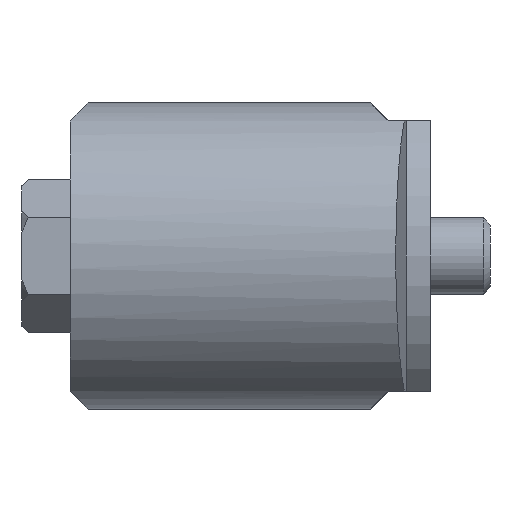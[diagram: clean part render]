
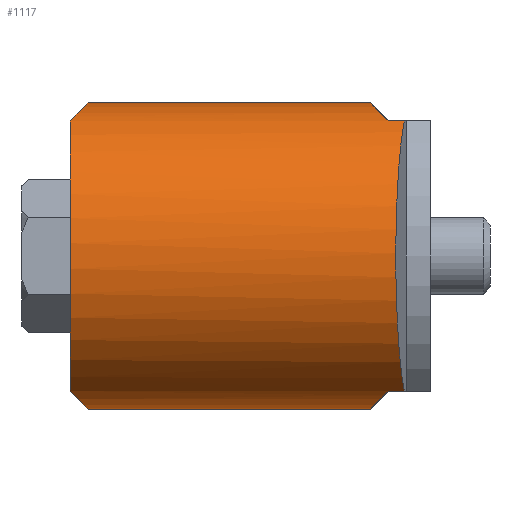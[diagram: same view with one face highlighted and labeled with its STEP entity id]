
A CAD part, left-side view. The second image highlights one B-rep face of the part: STEP entity #1117.
In plain terms, the highlighted cylindrical face has radius 12.75 mm (diameter 25.5 mm), a partial arc.
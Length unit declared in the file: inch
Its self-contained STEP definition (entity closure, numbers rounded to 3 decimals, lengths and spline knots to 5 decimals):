
#40=ELLIPSE('',#1204,0.70989,0.50197);
#41=ELLIPSE('',#1207,0.70989,0.50197);
#42=ELLIPSE('',#1210,0.70989,0.50197);
#43=ELLIPSE('',#1212,0.70989,0.50197);
#44=ELLIPSE('',#1216,0.50473,0.50197);
#104=FACE_OUTER_BOUND('',#168,.T.);
#168=EDGE_LOOP('',(#763,#764,#765,#766,#767,#768,#769,#770,#771,#772));
#235=LINE('',#1715,#303);
#248=LINE('',#1745,#316);
#257=LINE('',#1770,#325);
#258=LINE('',#1772,#326);
#303=VECTOR('',#1368,0.3937);
#316=VECTOR('',#1387,0.3937);
#325=VECTOR('',#1414,0.3937);
#326=VECTOR('',#1417,0.3937);
#375=CIRCLE('',#1218,0.50197);
#446=VERTEX_POINT('',#1705);
#447=VERTEX_POINT('',#1706);
#450=VERTEX_POINT('',#1714);
#455=VERTEX_POINT('',#1726);
#456=VERTEX_POINT('',#1727);
#463=VERTEX_POINT('',#1742);
#464=VERTEX_POINT('',#1744);
#466=VERTEX_POINT('',#1750);
#468=VERTEX_POINT('',#1756);
#469=VERTEX_POINT('',#1757);
#560=EDGE_CURVE('',#446,#447,#40,.T.);
#564=EDGE_CURVE('',#447,#450,#235,.T.);
#570=EDGE_CURVE('',#455,#456,#41,.T.);
#578=EDGE_CURVE('',#464,#463,#248,.T.);
#581=EDGE_CURVE('',#463,#466,#42,.T.);
#584=EDGE_CURVE('',#468,#469,#43,.T.);
#590=EDGE_CURVE('',#450,#464,#44,.T.);
#591=EDGE_CURVE('',#466,#468,#257,.T.);
#592=EDGE_CURVE('',#455,#469,#375,.T.);
#593=EDGE_CURVE('',#446,#456,#258,.T.);
#763=ORIENTED_EDGE('',*,*,#560,.T.);
#764=ORIENTED_EDGE('',*,*,#564,.T.);
#765=ORIENTED_EDGE('',*,*,#590,.T.);
#766=ORIENTED_EDGE('',*,*,#578,.T.);
#767=ORIENTED_EDGE('',*,*,#581,.T.);
#768=ORIENTED_EDGE('',*,*,#591,.T.);
#769=ORIENTED_EDGE('',*,*,#584,.T.);
#770=ORIENTED_EDGE('',*,*,#592,.F.);
#771=ORIENTED_EDGE('',*,*,#570,.T.);
#772=ORIENTED_EDGE('',*,*,#593,.F.);
#1023=CYLINDRICAL_SURFACE('',#1217,0.50197);
#1117=ADVANCED_FACE('',(#104),#1023,.T.);
#1204=AXIS2_PLACEMENT_3D('',#1707,#1361,#1362);
#1207=AXIS2_PLACEMENT_3D('',#1728,#1376,#1377);
#1210=AXIS2_PLACEMENT_3D('',#1751,#1392,#1393);
#1212=AXIS2_PLACEMENT_3D('',#1758,#1398,#1399);
#1216=AXIS2_PLACEMENT_3D('',#1768,#1410,#1411);
#1217=AXIS2_PLACEMENT_3D('',#1769,#1412,#1413);
#1218=AXIS2_PLACEMENT_3D('',#1771,#1415,#1416);
#1361=DIRECTION('center_axis',(0.,0.707,0.707));
#1362=DIRECTION('ref_axis',(0.,-0.707,0.707));
#1368=DIRECTION('',(0.,-1.,0.));
#1376=DIRECTION('center_axis',(0.,-0.707,0.707));
#1377=DIRECTION('ref_axis',(0.,0.707,0.707));
#1387=DIRECTION('',(0.,1.,0.));
#1392=DIRECTION('center_axis',(0.,0.707,-0.707));
#1393=DIRECTION('ref_axis',(0.,0.707,0.707));
#1398=DIRECTION('center_axis',(0.,-0.707,-0.707));
#1399=DIRECTION('ref_axis',(0.,-0.707,0.707));
#1410=DIRECTION('center_axis',(0.105,0.995,0.));
#1411=DIRECTION('ref_axis',(-0.995,0.105,0.));
#1412=DIRECTION('center_axis',(0.,-1.,0.));
#1413=DIRECTION('ref_axis',(0.,0.,1.));
#1414=DIRECTION('',(0.,1.,0.));
#1415=DIRECTION('center_axis',(0.,1.,0.));
#1416=DIRECTION('ref_axis',(0.,0.,1.));
#1417=DIRECTION('',(0.,1.,0.));
#1705=CARTESIAN_POINT('',(-0.65997,-0.4875,-0.50197));
#1706=CARTESIAN_POINT('',(-0.89619,-0.54655,-0.44291));
#1707=CARTESIAN_POINT('Origin',(-0.65997,-0.98947,0.));
#1714=CARTESIAN_POINT('',(-0.89619,-0.60002,-0.44291));
#1715=CARTESIAN_POINT('',(-0.89619,0.49675,-0.44291));
#1726=CARTESIAN_POINT('',(-0.89619,0.49675,-0.44291));
#1727=CARTESIAN_POINT('',(-0.65997,0.4377,-0.50197));
#1728=CARTESIAN_POINT('Origin',(-0.65997,0.93967,0.));
#1742=CARTESIAN_POINT('',(-0.89619,-0.54655,0.44291));
#1744=CARTESIAN_POINT('',(-0.89619,-0.60002,0.44291));
#1745=CARTESIAN_POINT('',(-0.89619,0.49675,0.44291));
#1750=CARTESIAN_POINT('',(-0.65997,-0.4875,0.50197));
#1751=CARTESIAN_POINT('Origin',(-0.65997,-0.98947,0.));
#1756=CARTESIAN_POINT('',(-0.65997,0.4377,0.50197));
#1757=CARTESIAN_POINT('',(-0.89619,0.49675,0.44291));
#1758=CARTESIAN_POINT('Origin',(-0.65997,0.93967,0.));
#1768=CARTESIAN_POINT('Origin',(-0.65997,-0.62485,0.));
#1769=CARTESIAN_POINT('Origin',(-0.65997,0.49675,0.));
#1770=CARTESIAN_POINT('',(-0.65997,0.49675,0.50197));
#1771=CARTESIAN_POINT('Origin',(-0.65997,0.49675,0.));
#1772=CARTESIAN_POINT('',(-0.65997,0.49675,-0.50197));
